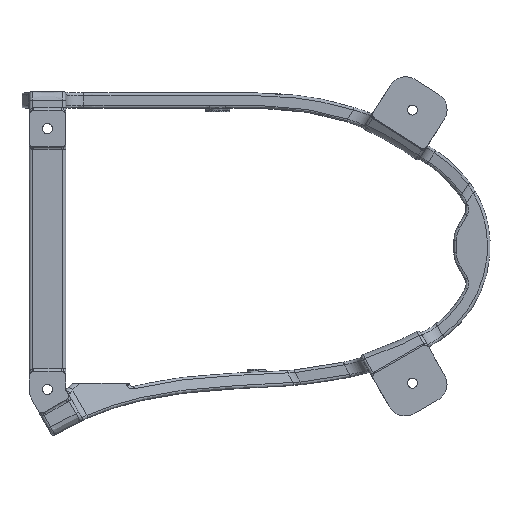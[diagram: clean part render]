
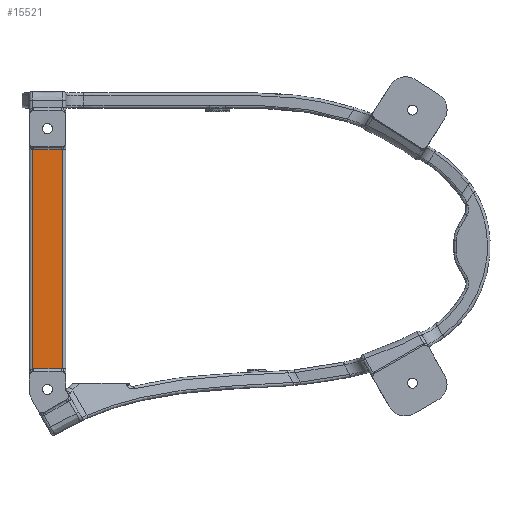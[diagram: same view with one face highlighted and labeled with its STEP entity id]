
A CAD part, front view. The second image highlights one B-rep face of the part: STEP entity #15521.
In plain terms, the highlighted planar face has unit normal (0, -1, 0).
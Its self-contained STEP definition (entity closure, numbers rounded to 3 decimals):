
#2545=DIRECTION('',(0.,0.,1.));
#2546=VECTOR('',#2545,241.008);
#2547=CARTESIAN_POINT('',(1939.5,93.,-134.254));
#2548=LINE('',#2547,#2546);
#2549=CARTESIAN_POINT('',(1937.5,93.,-142.));
#2550=DIRECTION('',(0.,-1.,0.));
#2551=DIRECTION('',(0.25,0.,0.968));
#2552=AXIS2_PLACEMENT_3D('',#2549,#2550,#2551);
#2554=DIRECTION('',(-1.,0.,0.));
#2555=VECTOR('',#2554,30.);
#2556=CARTESIAN_POINT('',(1937.5,93.,-134.));
#2557=LINE('',#2556,#2555);
#2558=CARTESIAN_POINT('',(1907.5,93.,-142.));
#2559=DIRECTION('',(0.,-1.,0.));
#2560=DIRECTION('',(0.,0.,1.));
#2561=AXIS2_PLACEMENT_3D('',#2558,#2559,#2560);
#2563=DIRECTION('',(0.,0.,1.));
#2564=VECTOR('',#2563,241.008);
#2565=CARTESIAN_POINT('',(1905.5,93.,-134.254));
#2566=LINE('',#2565,#2564);
#2567=CARTESIAN_POINT('',(1907.5,93.,114.5));
#2568=DIRECTION('',(0.,-1.,0.));
#2569=DIRECTION('',(-0.25,0.,-0.968));
#2570=AXIS2_PLACEMENT_3D('',#2567,#2568,#2569);
#2572=DIRECTION('',(1.,0.,0.));
#2573=VECTOR('',#2572,30.);
#2574=CARTESIAN_POINT('',(1907.5,93.,106.5));
#2575=LINE('',#2574,#2573);
#2576=CARTESIAN_POINT('',(1937.5,93.,114.5));
#2577=DIRECTION('',(0.,-1.,0.));
#2578=DIRECTION('',(0.,0.,-1.));
#2579=AXIS2_PLACEMENT_3D('',#2576,#2577,#2578);
#4379=CARTESIAN_POINT('',(1939.5,93.,106.754));
#4442=CARTESIAN_POINT('',(1905.5,93.,-134.254));
#5624=VERTEX_POINT('',#4442);
#5627=CARTESIAN_POINT('',(1907.5,93.,-134.));
#5628=VERTEX_POINT('',#5627);
#5631=CARTESIAN_POINT('',(1937.5,93.,-134.));
#5632=VERTEX_POINT('',#5631);
#5646=CARTESIAN_POINT('',(1907.5,93.,106.5));
#5647=CARTESIAN_POINT('',(1937.5,93.,106.5));
#5648=VERTEX_POINT('',#5646);
#5649=VERTEX_POINT('',#5647);
#5654=CARTESIAN_POINT('',(1905.5,93.,106.754));
#5655=VERTEX_POINT('',#5654);
#5787=VERTEX_POINT('',#4379);
#5788=CARTESIAN_POINT('',(1939.5,93.,-134.254));
#5789=VERTEX_POINT('',#5788);
#15498=CARTESIAN_POINT('',(1902.5,93.,-163.547));
#15499=DIRECTION('',(0.,-1.,0.));
#15500=DIRECTION('',(0.,0.,1.));
#15501=AXIS2_PLACEMENT_3D('',#15498,#15499,#15500);
#15502=PLANE('',#15501);
#15504=ORIENTED_EDGE('',*,*,#15503,.F.);
#15506=ORIENTED_EDGE('',*,*,#15505,.T.);
#15508=ORIENTED_EDGE('',*,*,#15507,.T.);
#15510=ORIENTED_EDGE('',*,*,#15509,.T.);
#15512=ORIENTED_EDGE('',*,*,#15511,.T.);
#15514=ORIENTED_EDGE('',*,*,#15513,.T.);
#15516=ORIENTED_EDGE('',*,*,#15515,.T.);
#15518=ORIENTED_EDGE('',*,*,#15517,.T.);
#15519=EDGE_LOOP('',(#15504,#15506,#15508,#15510,#15512,#15514,#15516,#15518));
#15520=FACE_OUTER_BOUND('',#15519,.F.);
#15521=ADVANCED_FACE('',(#15520),#15502,.T.);
#2553=CIRCLE('',#2552,8.);
#2562=CIRCLE('',#2561,8.);
#2571=CIRCLE('',#2570,8.);
#2580=CIRCLE('',#2579,8.);
#15503=EDGE_CURVE('',#5789,#5787,#2548,.T.);
#15505=EDGE_CURVE('',#5789,#5632,#2553,.T.);
#15507=EDGE_CURVE('',#5632,#5628,#2557,.T.);
#15509=EDGE_CURVE('',#5628,#5624,#2562,.T.);
#15511=EDGE_CURVE('',#5624,#5655,#2566,.T.);
#15513=EDGE_CURVE('',#5655,#5648,#2571,.T.);
#15515=EDGE_CURVE('',#5648,#5649,#2575,.T.);
#15517=EDGE_CURVE('',#5649,#5787,#2580,.T.);
